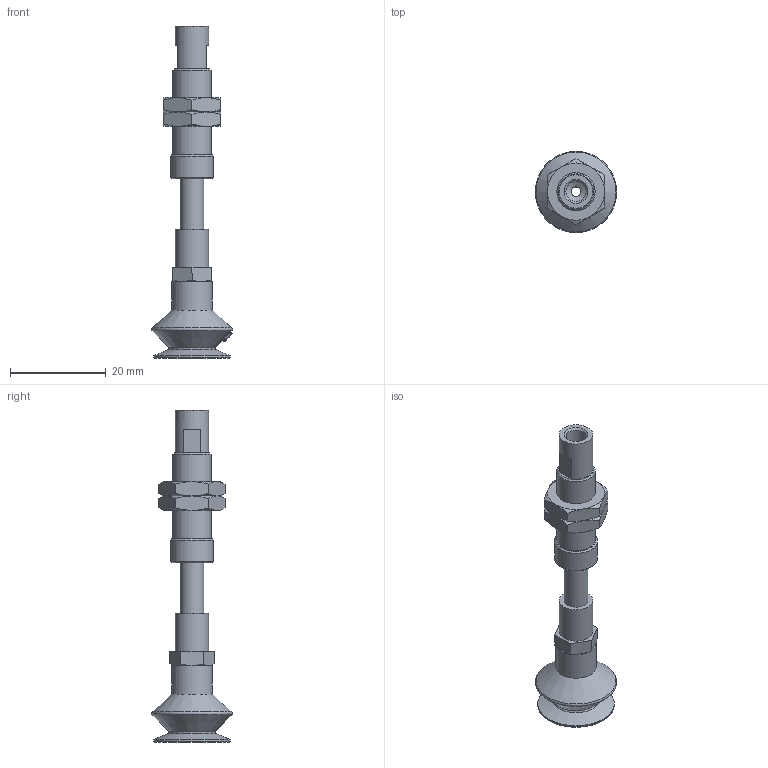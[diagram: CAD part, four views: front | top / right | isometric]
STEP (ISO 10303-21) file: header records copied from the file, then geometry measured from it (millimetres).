
FILE_DESCRIPTION(('STEP AP203'),'1');
FILE_NAME('-PE.stp','2025-04-02T02:46:40',(' '),(' '),'Spatial InterOp 3D',' ',' ');
FILE_SCHEMA(('CONFIG_CONTROL_DESIGN'));
Length unit declared in the file: millimetre
Products named in the file (10): BNABPBTS-15A-10-※-PE; ZIG; BODY; NUT; TN-PS-10-M5; Setting screws-TN-PS-10-M5; BPBG-15A-※; __27; BPBG-15A
Assembly tree (9 placements, depth 3):
  BNABPBTS-15A-10-※-PE
    ZIG
    BODY
    NUT
    NUT
    TN-PS-10-M5
      Setting screws-TN-PS-10-M5
    BPBG-15A-※
      __27
      BPBG-15A
Bounding box: 17 x 17 x 69.5 mm (x, y, z)
Volume: 3801.9 mm3; surface area: 4758.9 mm2
Topology: 7 solids, 7 shells, 152 faces, 322 edges, 197 vertices
Faces by surface type: plane 59, cone 51, cylinder 24, torus 10, bspline 8
Full cylindrical faces by diameter (mm): 2 x2, 3.9 x1, 4 x5, 4.2 x2, 5 x3, 5.2 x1, 6 x2, 7 x2, 7.25 x2, 8 x1, 8.5 x1, 9 x1, 16 x1
Entity records: 5355 total; most frequent: CARTESIAN_POINT 1964, DIRECTION 603, ORIENTED_EDGE 508, AXIS2_PLACEMENT_3D 270, EDGE_CURVE 254, EDGE_LOOP 229, FACE_OUTER_BOUND 186, VERTEX_POINT 181
